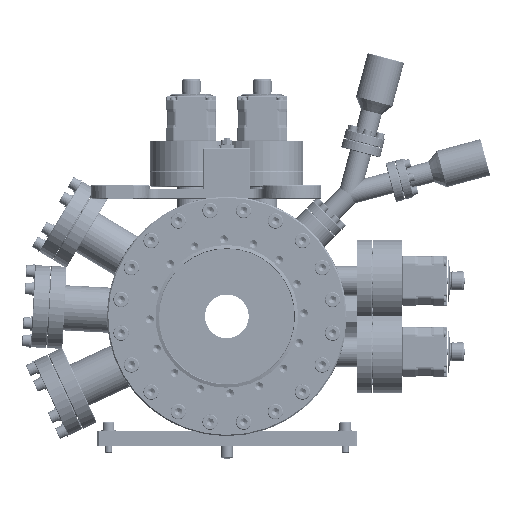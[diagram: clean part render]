
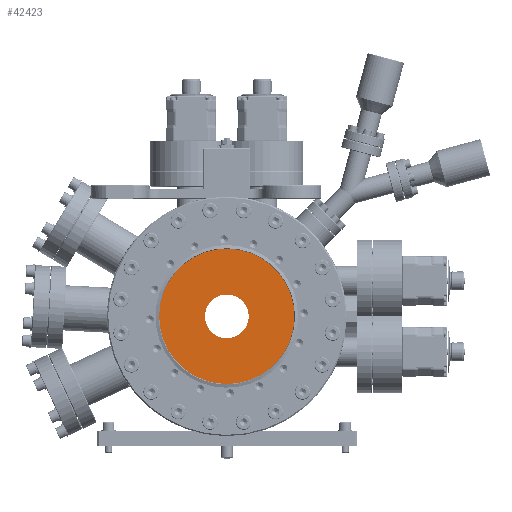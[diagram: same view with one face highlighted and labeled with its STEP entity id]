
A CAD part, left-side view. The second image highlights one B-rep face of the part: STEP entity #42423.
In plain terms, the highlighted planar face has unit normal (-1, 0, 0) as drawn and (1, 0, 0) by its records, which use the part's own axes.
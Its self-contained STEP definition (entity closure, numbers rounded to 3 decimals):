
#3302=FACE_BOUND('',#13754,.T.);
#7297=CIRCLE('',#46211,18.5);
#7304=CIRCLE('',#46225,57.205);
#10313=FACE_OUTER_BOUND('',#13753,.T.);
#13753=EDGE_LOOP('',(#38761));
#13754=EDGE_LOOP('',(#38762));
#22548=VERTEX_POINT('',#78756);
#22555=VERTEX_POINT('',#78777);
#27954=EDGE_CURVE('',#22548,#22548,#7297,.T.);
#27961=EDGE_CURVE('',#22555,#22555,#7304,.T.);
#38761=ORIENTED_EDGE('',*,*,#27961,.T.);
#38762=ORIENTED_EDGE('',*,*,#27954,.T.);
#39980=PLANE('',#46226);
#42423=ADVANCED_FACE('',(#10313,#3302),#39980,.T.);
#46211=AXIS2_PLACEMENT_3D('',#78757,#56440,#56441);
#46225=AXIS2_PLACEMENT_3D('',#78778,#56468,#56469);
#46226=AXIS2_PLACEMENT_3D('',#78779,#56470,#56471);
#56440=DIRECTION('center_axis',(-1.,0.,0.));
#56441=DIRECTION('ref_axis',(0.,0.,1.));
#56468=DIRECTION('center_axis',(1.,0.,0.));
#56469=DIRECTION('ref_axis',(0.,0.,-1.));
#56470=DIRECTION('center_axis',(1.,0.,0.));
#56471=DIRECTION('ref_axis',(0.,0.,-1.));
#78756=CARTESIAN_POINT('',(5.832,-37.032,18.5));
#78757=CARTESIAN_POINT('Origin',(5.832,-37.032,0.));
#78777=CARTESIAN_POINT('',(5.832,-37.032,-57.205));
#78778=CARTESIAN_POINT('Origin',(5.832,-37.032,0.));
#78779=CARTESIAN_POINT('Origin',(5.832,-37.032,-28.602));
